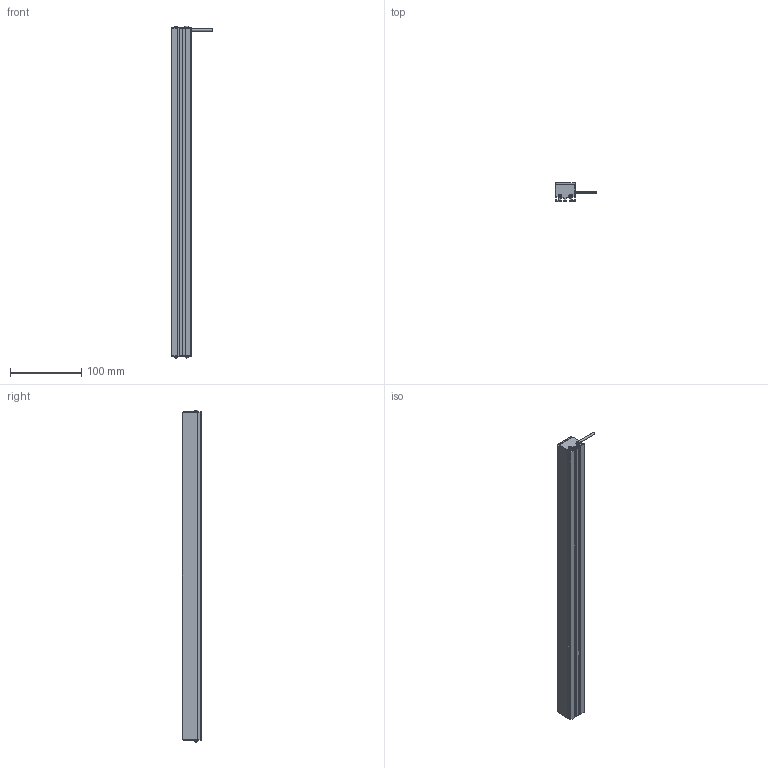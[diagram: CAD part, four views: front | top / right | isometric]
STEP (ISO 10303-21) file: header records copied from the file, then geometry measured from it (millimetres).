
FILE_DESCRIPTION((''),'2;1');
FILE_NAME('MV-LLDS-462-28_ASM','2020-12-30T',('Administrator'),(''),'PRO/ENGINEER BY PARAMETRIC TECHNOLOGY CORPORATION, 2010100','PRO/ENGINEER BY PARAMETRIC TECHNOLOGY CORPORATION, 2010100','');
FILE_SCHEMA(('CONFIG_CONTROL_DESIGN'));
Length unit declared in the file: millimetre
Products named in the file (3): BL-4_3_; M3-5_3; MV-LLDS-462-28_ASM
Assembly tree (5 placements, depth 2):
  MV-LLDS-462-28_ASM
    BL-4_3_
    M3-5_3  x4
Bounding box: 58 x 27 x 466.68 mm (x, y, z)
Volume: 289466.3 mm3; surface area: 108557.3 mm2
Topology: 5 solids, 13 shells, 303 faces, 802 edges, 516 vertices
Faces by surface type: plane 185, cylinder 70, cone 16, bspline 16, torus 8, sphere 8
Entity records: 6720 total; most frequent: CARTESIAN_POINT 1432, ORIENTED_EDGE 1074, DIRECTION 1069, EDGE_CURVE 547, VECTOR 397, LINE 397, VERTEX_POINT 357, AXIS2_PLACEMENT_3D 336
